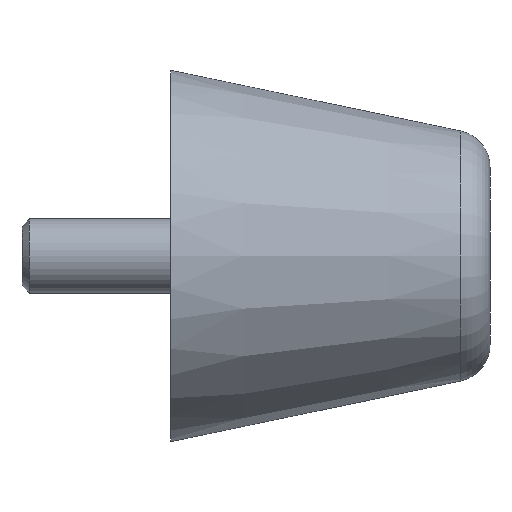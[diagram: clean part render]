
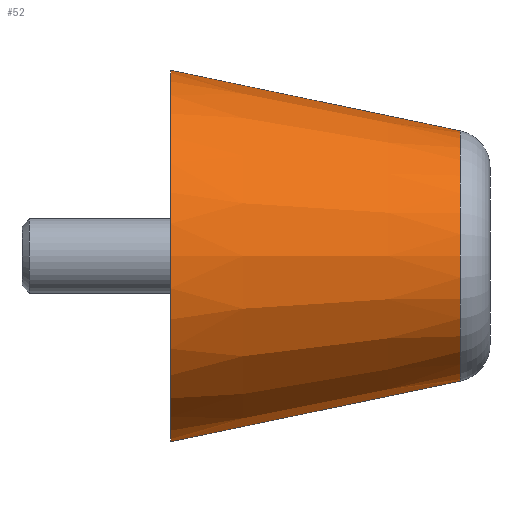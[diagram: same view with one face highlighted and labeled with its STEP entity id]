
A CAD part, left-side view. The second image highlights one B-rep face of the part: STEP entity #52.
In plain terms, the highlighted conical face has half-angle 11.821 degrees and reference radius 16 mm.
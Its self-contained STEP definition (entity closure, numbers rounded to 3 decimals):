
#14 = DIRECTION ( 'NONE',  ( 0., -1., 0. ) ) ;
#18 = DIRECTION ( 'NONE',  ( 0., 1., 0. ) ) ;
#37 = EDGE_CURVE ( 'NONE', #391, #420, #464, .T. ) ;
#51 = VECTOR ( 'NONE', #385, 1000. ) ;
#52 = ADVANCED_FACE ( 'NONE', ( #100 ), #252, .T. ) ;
#72 = VERTEX_POINT ( 'NONE', #441 ) ;
#78 = CARTESIAN_POINT ( 'NONE',  ( 0., 3.976, 0. ) ) ;
#88 = EDGE_LOOP ( 'NONE', ( #538, #168, #129, #282 ) ) ;
#94 = DIRECTION ( 'NONE',  ( 0., 0., -1. ) ) ;
#100 = FACE_OUTER_BOUND ( 'NONE', #88, .T. ) ;
#129 = ORIENTED_EDGE ( 'NONE', *, *, #223, .T. ) ;
#130 = VERTEX_POINT ( 'NONE', #248 ) ;
#158 = AXIS2_PLACEMENT_3D ( 'NONE', #78, #167, #335 ) ;
#167 = DIRECTION ( 'NONE',  ( 0., 1., 0. ) ) ;
#168 = ORIENTED_EDGE ( 'NONE', *, *, #518, .T. ) ;
#174 = LINE ( 'NONE', #185, #236 ) ;
#185 = CARTESIAN_POINT ( 'NONE',  ( 0., 0., 16. ) ) ;
#205 = DIRECTION ( 'NONE',  ( 0., 0., 1. ) ) ;
#206 = EDGE_CURVE ( 'NONE', #72, #420, #509, .T. ) ;
#211 = DIRECTION ( 'NONE',  ( 0., 0.979, 0.205 ) ) ;
#223 = EDGE_CURVE ( 'NONE', #130, #391, #174, .T. ) ;
#229 = CARTESIAN_POINT ( 'NONE',  ( 0., 0., 0. ) ) ;
#236 = VECTOR ( 'NONE', #211, 1000. ) ;
#248 = CARTESIAN_POINT ( 'NONE',  ( 0., 3.976, 16.832 ) ) ;
#252 = CONICAL_SURFACE ( 'NONE', #268, 16., 0.206 ) ;
#256 = CARTESIAN_POINT ( 'NONE',  ( 0., 43., -25. ) ) ;
#268 = AXIS2_PLACEMENT_3D ( 'NONE', #229, #18, #205 ) ;
#282 = ORIENTED_EDGE ( 'NONE', *, *, #37, .T. ) ;
#291 = CARTESIAN_POINT ( 'NONE',  ( 0., 0., -16. ) ) ;
#335 = DIRECTION ( 'NONE',  ( 0., 0., -1. ) ) ;
#385 = DIRECTION ( 'NONE',  ( 0., 0.979, -0.205 ) ) ;
#391 = VERTEX_POINT ( 'NONE', #409 ) ;
#409 = CARTESIAN_POINT ( 'NONE',  ( 0., 43., 25. ) ) ;
#419 = CIRCLE ( 'NONE', #158, 16.832 ) ;
#420 = VERTEX_POINT ( 'NONE', #256 ) ;
#441 = CARTESIAN_POINT ( 'NONE',  ( 0., 3.976, -16.832 ) ) ;
#464 = CIRCLE ( 'NONE', #490, 25. ) ;
#490 = AXIS2_PLACEMENT_3D ( 'NONE', #526, #14, #94 ) ;
#509 = LINE ( 'NONE', #291, #51 ) ;
#518 = EDGE_CURVE ( 'NONE', #72, #130, #419, .T. ) ;
#526 = CARTESIAN_POINT ( 'NONE',  ( 0., 43., 0. ) ) ;
#538 = ORIENTED_EDGE ( 'NONE', *, *, #206, .F. ) ;
